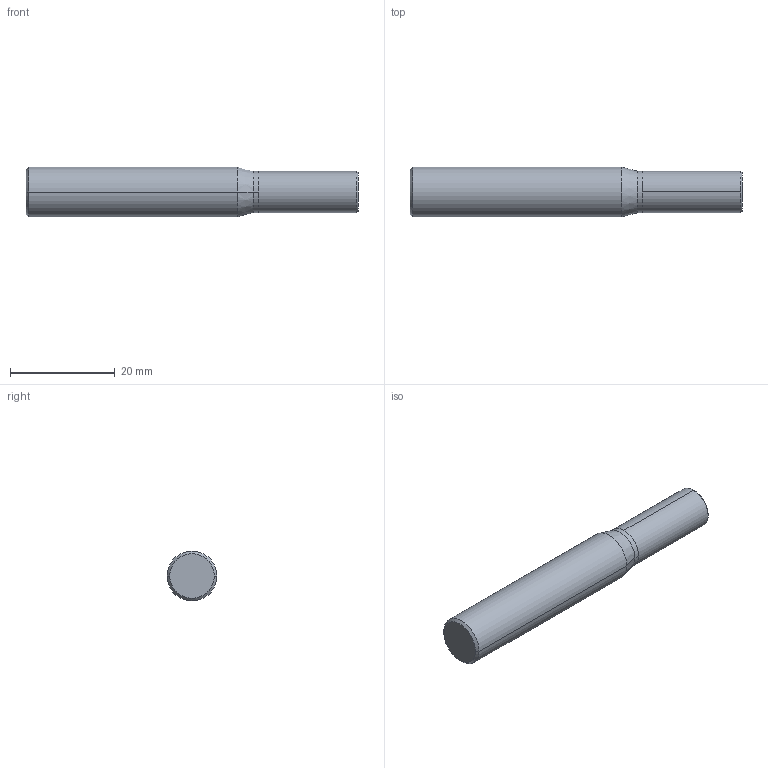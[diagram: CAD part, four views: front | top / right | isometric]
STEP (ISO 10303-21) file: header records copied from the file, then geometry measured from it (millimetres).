
FILE_DESCRIPTION (( 'STEP AP203' ), '1' );
FILE_NAME ('03-0491.STEP', '2021-06-09T01:13:38', ( 'USER' ), ( 'Hewlett-Packard Company' ), 'SwSTEP 2.0', 'SolidWorks 2014', '' );
FILE_SCHEMA (( 'CONFIG_CONTROL_DESIGN' ));
Length unit declared in the file: millimetre
Products named in the file (1): 03-0491
Bounding box: 63.5 x 9.53 x 9.53 mm (x, y, z)
Volume: 4050.6 mm3; surface area: 2002.5 mm2
Topology: 2 solids, 2 shells, 16 faces, 28 edges, 16 vertices
Faces by surface type: cylinder 6, cone 6, plane 4
Entity records: 459 total; most frequent: DIRECTION 78, CARTESIAN_POINT 61, ORIENTED_EDGE 56, AXIS2_PLACEMENT_3D 33, EDGE_CURVE 28, ADVANCED_FACE 16, EDGE_LOOP 16, VERTEX_POINT 16
